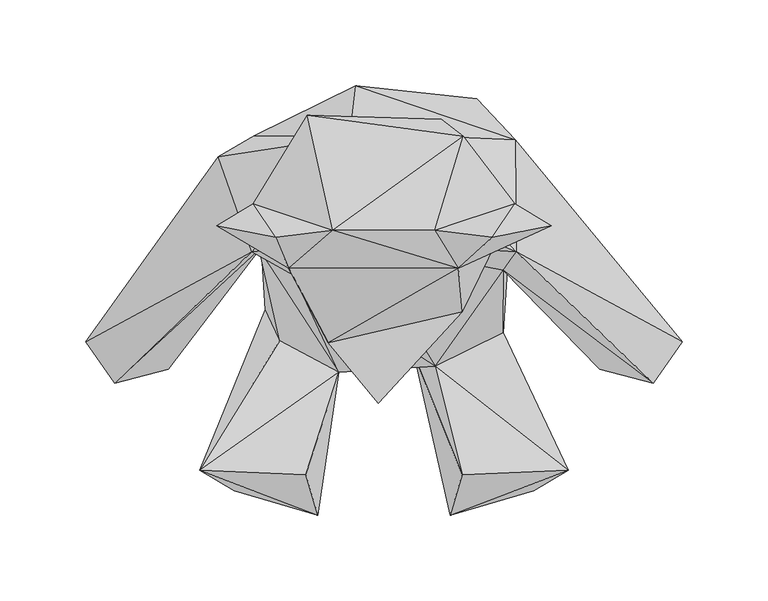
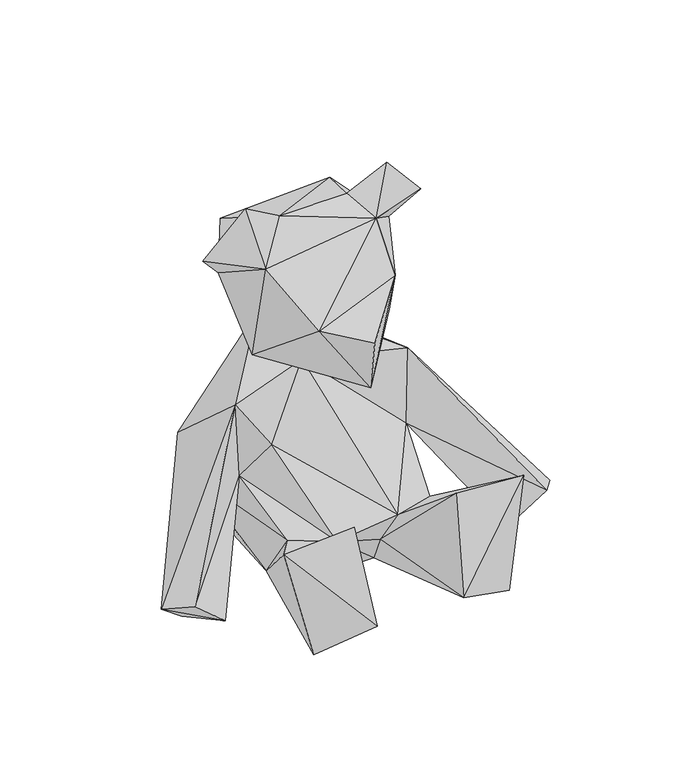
"""IFC4 building model written with IfcOpenShell, lengths in millimetres: geographic element geometry, Enscape AssetDefinition - Plushy 1 : Enscape AssetDefinition - Plushy 1."""

from ifc_helpers import new_model, si_unit, origin, place, context, project, spatial, faceted_brep, source, transform, mapped, element, save


def geographic_element_06c4260c(model_context):
    return source(origin(), model_context, "Body", "Brep", [
        faceted_brep([(30.8219995, 74.8730004, -2.7340001), (20.2389993, -3.9619999, 0.099), (-28.6730006, -4.1169999, -0.295), (-27.6989993, -30.4739997, 47.8329994), (16.2390005, -20.7250006, 28.8849995), (37.1269993, -113.7489974, 22.7049999), (85.8339965, -99.6859968, 4.3310001), (28.3059999, -27.1899998, 51.5719987), (44.1350006, -90.1670009, 104.588002), (105.8230028, -87.6780003, 98.7650007), (68.1300014, -7.5289998, 43.3790013), (-53.9700016, 26.0269996, 114.2439991), (-15.8610009, 45.1989993, 170.442), (67.9839998, 28.9810002, 90.1689976), (74.3430033, 93.0230021, 17.4950007), (124.199003, -28.7430007, 6.819), (155.5709988, -36.8390009, 36.2909995), (79.9209997, 96.8350023, 86.5999982), (75.7289976, 39.5289995, 152.5090039), (148.586005, -4.187, 4.834), (172.318995, -12.9039995, 25.2679996), (13.882, 107.5220034, 176.6089946), (75.1070008, 104.9550027, 127.4860054), (32.2169997, 58.4780015, 177.5189936), (52.4660014, 128.775999, 48.8119982), (-21.3389993, 106.5270007, 179.0470034), (-17.9539993, 136.3269985, 40.403001), (-76.9649968, 107.1859971, 45.0839996), (-62.9789978, 97.9700014, 8.7799998), (-70.5709979, 5.806, 13.4610003), (-40.0579982, -113.7489974, 22.7049999), (-88.763997, -99.6859968, 4.3310001), (-62.0739982, -12.3330001, 50.2379984), (-108.7530032, -87.6780003, 98.7650007), (-47.065001, -90.1670009, 104.588002), (-74.2769986, 40.8850014, 83.1950009), (-79.8320025, 77.7229965, 79.6459988), (-98.0689973, 95.0490013, 99.8170003), (-127.1300018, -28.7430007, 6.819), (-151.5170038, -4.187, 4.834), (-78.6599964, 39.5289995, 152.5090039), (-175.2489954, -12.9039995, 25.2679996), (-158.5019976, -36.8390009, 36.2909995), (-62.7589971, 40.8589989, 193.4780031), (4.0529999, -26.7159995, 180.1780015), (59.8279983, 40.8589989, 193.4780031), (-4.739, -48.5199988, 238.1310016), (-34.0869986, -13.3880004, 238.6990041), (44.2730002, 4.741, 252.9940009), (32.0009999, 116.9119999, 224.6910036), (74.752003, 67.6319972, 259.9459887), (41.6680016, 29.8759993, 292.5910056), (-56.9319986, 30.1070008, 278.8439989), (-31.436, 52.2530004, 307.2049916), (96.111998, 54.7939986, 286.116004), (28.1659998, 52.0079993, 307.7990115), (61.6730005, 48.1860004, 327.5260031), (44.7539985, 107.0270017, 283.7060094), (-46.1639985, 119.2229986, 269.0890133), (-77.6820034, 67.6319972, 259.9459887), (-64.6030009, 48.1860004, 327.5260031), (-99.0429968, 54.7939986, 286.116004)], [[[0, 1, 2]], [[2, 1, 3]], [[3, 1, 4]], [[5, 4, 1]], [[1, 6, 5]], [[6, 1, 0]], [[4, 7, 3]], [[4, 5, 8]], [[4, 8, 7]], [[5, 6, 9]], [[9, 8, 5]], [[6, 10, 9]], [[0, 10, 6]], [[9, 7, 8]], [[10, 7, 9]], [[3, 7, 11]], [[7, 12, 11]], [[13, 7, 10]], [[13, 12, 7]], [[14, 10, 0]], [[14, 13, 10]], [[13, 15, 16]], [[17, 13, 14]], [[18, 13, 16]], [[13, 18, 12]], [[17, 15, 13]], [[19, 20, 15]], [[20, 16, 15]], [[17, 19, 15]], [[18, 16, 20]], [[21, 18, 22]], [[18, 20, 22]], [[23, 18, 21]], [[18, 23, 12]], [[17, 20, 19]], [[22, 20, 17]], [[24, 22, 17]], [[14, 24, 17]], [[25, 21, 22]], [[26, 22, 24]], [[25, 22, 26]], [[14, 26, 24]], [[27, 25, 26]], [[26, 28, 27]], [[14, 28, 26]], [[14, 0, 28]], [[29, 28, 2]], [[28, 0, 2]], [[28, 29, 27]], [[2, 3, 30]], [[30, 31, 2]], [[31, 29, 2]], [[32, 27, 29]], [[33, 29, 31]], [[33, 32, 29]], [[33, 31, 30]], [[34, 30, 3]], [[30, 34, 33]], [[34, 3, 33]], [[33, 3, 32]], [[32, 3, 35]], [[35, 3, 11]], [[32, 35, 27]], [[27, 35, 36]], [[27, 37, 25]], [[27, 36, 37]], [[36, 38, 39]], [[35, 38, 36]], [[36, 39, 37]], [[37, 40, 25]], [[39, 41, 37]], [[37, 41, 40]], [[38, 41, 39]], [[42, 38, 35]], [[38, 42, 41]], [[41, 42, 40]], [[35, 11, 40]], [[25, 40, 12]], [[12, 40, 11]], [[35, 40, 42]], [[12, 43, 25]], [[44, 43, 12]], [[45, 12, 23]], [[12, 45, 44]], [[46, 47, 44]], [[47, 43, 44]], [[44, 48, 46]], [[48, 44, 45]], [[21, 45, 23]], [[49, 45, 21]], [[50, 48, 45]], [[45, 49, 50]], [[48, 50, 51]], [[51, 47, 48]], [[48, 47, 46]], [[47, 51, 52]], [[43, 47, 52]], [[52, 51, 53]], [[54, 51, 50]], [[55, 53, 51]], [[56, 51, 54]], [[55, 51, 56]], [[54, 50, 56]], [[56, 50, 55]], [[55, 50, 57]], [[50, 49, 57]], [[55, 57, 53]], [[57, 58, 53]], [[58, 57, 49]], [[21, 58, 49]], [[58, 59, 53]], [[25, 58, 21]], [[25, 43, 58]], [[59, 58, 43]], [[53, 59, 60]], [[60, 59, 61]], [[59, 52, 61]], [[43, 52, 59]], [[61, 52, 60]], [[60, 52, 53]]]),
    ])


if __name__ == "__main__":
    model = new_model("IFC4")
    model_context = context("Model", 3, world=origin())
    ifc_project = project(units=[si_unit("LENGTHUNIT", "METRE", prefix="MILLI")], contexts=[model_context])
    site = spatial("IfcSite", under=ifc_project)
    building = spatial("IfcBuilding", under=site)
    placement = place(None, origin())
    geographic_element_shape = geographic_element_06c4260c(model_context)
    element("IfcGeographicElement", 1, ObjectType="Enscape AssetDefinition - Plushy 1 : Enscape AssetDefinition - Plushy 1", at=placement, inside=building, context=model_context, shape_type="MappedRepresentation", body=[
        mapped(geographic_element_shape, transform((0.0, 0.0, 0.0), x_axis=(1.0, 0.0, 0.0), y_axis=(0.0, 1.0, 0.0), z_axis=(0.0, 0.0, 1.0))),
    ])
    save(model, "model.ifc")
